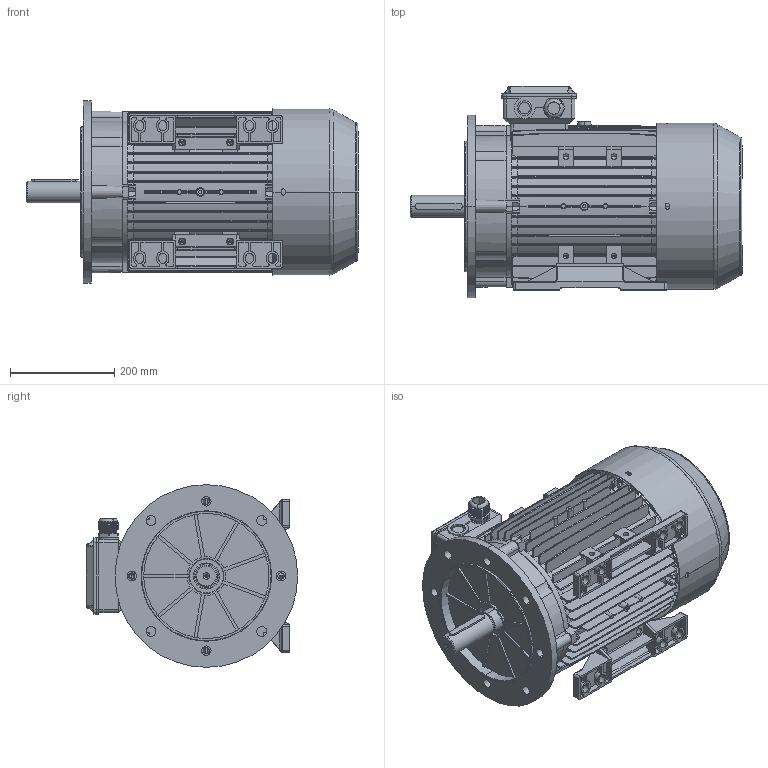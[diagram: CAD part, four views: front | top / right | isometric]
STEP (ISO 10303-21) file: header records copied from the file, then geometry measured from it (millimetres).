
FILE_DESCRIPTION (( 'STEP AP203' ), '1' );
FILE_NAME ('MME160 assembly B35 .STEP', '2016-04-29T12:38:44', ( 'PC' ), ( 'Microsoft' ), 'SwSTEP 2.0', 'SolidWorks 2014', '' );
FILE_SCHEMA (( 'CONFIG_CONTROL_DESIGN' ));
Length unit declared in the file: millimetre
Products named in the file (9): M160傷裔B5; M32 cable gland; M160儂褲; MME160 assembly B35 ; M160-Shaft ; Y2 160瑞欶 _163; M160諉盄碟裔; M160諉盄碟釱_1Hole; M160菁褐
Assembly tree (9 placements, depth 2):
  MME160 assembly B35 
    M160儂褲
    M160諉盄碟裔
    M160傷裔B5
    M160-Shaft 
    M160諉盄碟釱_1Hole
    M32 cable gland
    Y2 160瑞欶 _163
    M160菁褐  x2
Bounding box: 636 x 405 x 350 mm (x, y, z)
Volume: 5621548.5 mm3; surface area: 2243689.8 mm2
Topology: 10 solids, 10 shells, 5736 faces, 16132 edges, 10459 vertices
Faces by surface type: plane 2499, cylinder 2355, bspline 586, cone 208, torus 84, sphere 4
Entity records: 223394 total; most frequent: CARTESIAN_POINT 79655, ORIENTED_EDGE 31180, DIRECTION 28423, EDGE_CURVE 15590, VERTEX_POINT 10129, AXIS2_PLACEMENT_3D 9857, LINE 8709, VECTOR 8709
